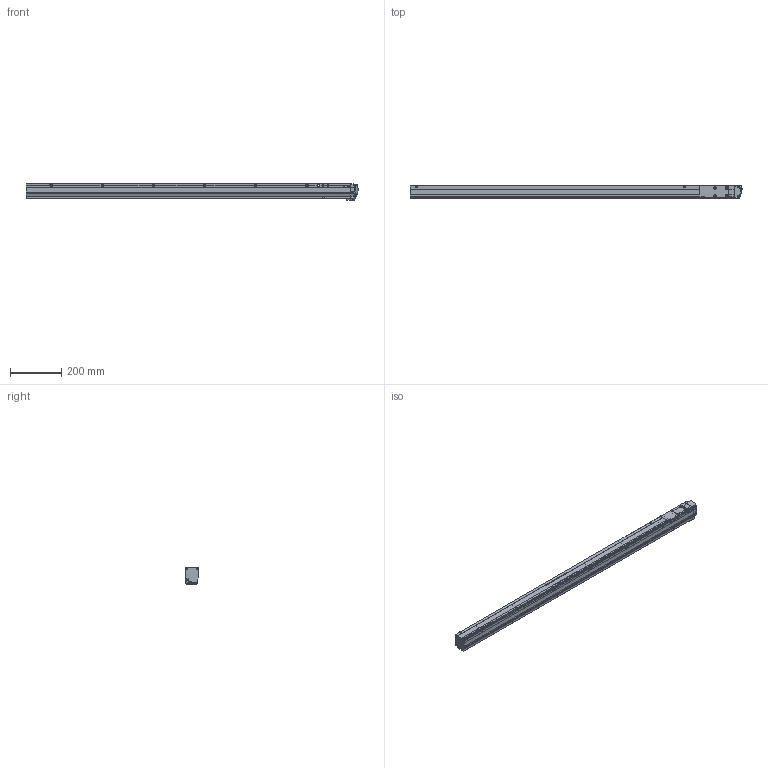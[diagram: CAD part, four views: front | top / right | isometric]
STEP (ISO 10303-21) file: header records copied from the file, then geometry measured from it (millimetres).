
FILE_DESCRIPTION(('Creo Elements/Direct Modeling STEP Export'),'2;1');
FILE_NAME('MOD-10E-M-Li.stp','2022-01-11T11:05:34',(''),(''),'Creo Elements/Direct Modeling STEP processor for AP214 (Solid Model)','Creo Elements/Direct Modeling 19.0G 27-Nov-2017 (C) Parametric Technology GmbH','');
FILE_SCHEMA(('AUTOMOTIVE_DESIGN { 1 0 10303 214 1 1 1 1 }'));
Length unit declared in the file: millimetre
Products named in the file (4): TAPA_DERECHA; Mod-10E-M-Li
Assembly tree (2 placements, depth 2):
  TAPA_DERECHA
    TAPA_DERECHA
  Mod-10E-M-Li
    Mod-10E-M-Li
Bounding box: 1297.31 x 50 x 64.07 mm (x, y, z)
Volume: 3247203.5 mm3; surface area: 404909 mm2
Topology: 2 solids, 12 shells, 1270 faces, 3405 edges, 2186 vertices
Faces by surface type: plane 495, cylinder 430, bspline 180, cone 110, torus 45, sphere 10
Entity records: 59649 total; most frequent: CARTESIAN_POINT 25707, ORIENTED_EDGE 6810, DIRECTION 5492, EDGE_CURVE 3396, VERTEX_POINT 2186, AXIS2_PLACEMENT_3D 1940, VECTOR 1612, LINE 1612
